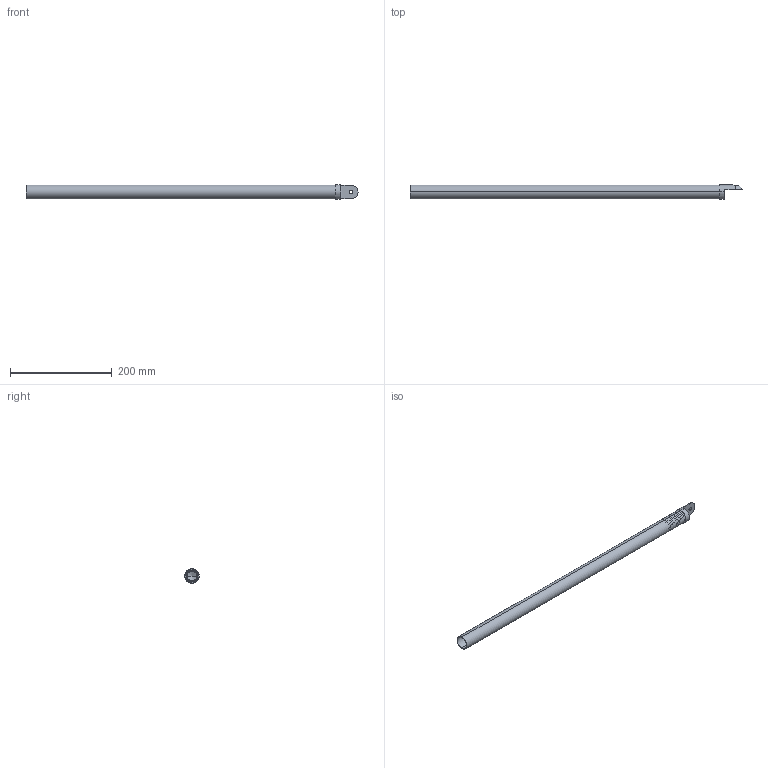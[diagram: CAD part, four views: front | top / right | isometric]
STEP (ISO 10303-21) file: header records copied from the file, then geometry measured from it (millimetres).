
FILE_DESCRIPTION (( 'STEP AP214' ), '1' );
FILE_NAME ('Single Sided Clevis Connector.STEP', '2013-08-19T13:05:10', ( 'ydmin' ), ( 'Microsoft' ), 'SwSTEP 2.0', 'SolidWorks 2013', '' );
FILE_SCHEMA (( 'AUTOMOTIVE_DESIGN' ));
Length unit declared in the file: inch
Products named in the file (3): DRP-002-0511-00_LEFT-TO-RIGHT OUTER TUBE INSERT; 6.000 Inch Tube; Single Sided Clevis Connector
Assembly tree (2 placements, depth 2):
  Single Sided Clevis Connector
    6.000 Inch Tube
    DRP-002-0511-00_LEFT-TO-RIGHT OUTER TUBE INSERT
Bounding box: 653.96 x 28.57 x 28.57 mm (x, y, z)
Volume: 69941.6 mm3; surface area: 113593.4 mm2
Topology: 2 solids, 2 shells, 229 faces, 673 edges, 447 vertices
Faces by surface type: cylinder 110, plane 108, torus 8, cone 2, sphere 1
Entity records: 7916 total; most frequent: CARTESIAN_POINT 1477, DIRECTION 1376, ORIENTED_EDGE 1342, EDGE_CURVE 671, AXIS2_PLACEMENT_3D 486, VERTEX_POINT 447, VECTOR 404, LINE 404
